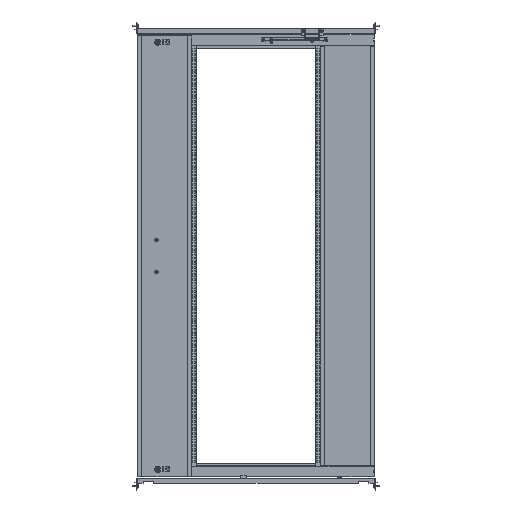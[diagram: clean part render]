
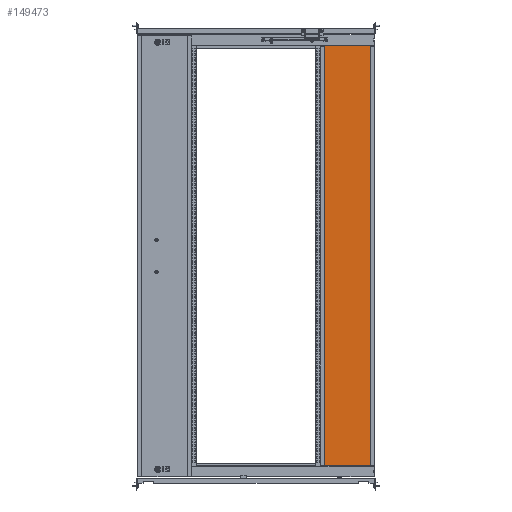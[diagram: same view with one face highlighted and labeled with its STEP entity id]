
A CAD part, top view. The second image highlights one B-rep face of the part: STEP entity #149473.
In plain terms, the highlighted planar face has unit normal (0, 0, 1).
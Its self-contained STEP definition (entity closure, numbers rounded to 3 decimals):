
#149056 = VERTEX_POINT('',#149057);
#149057 = CARTESIAN_POINT('',(-98.5,-786.9,0.));
#149063 = EDGE_CURVE('',#149064,#149056,#149066,.T.);
#149064 = VERTEX_POINT('',#149065);
#149065 = CARTESIAN_POINT('',(-98.5,786.9,0.));
#149066 = LINE('',#149067,#149068);
#149067 = CARTESIAN_POINT('',(-98.5,0.,
    0.));
#149068 = VECTOR('',#149069,1.);
#149069 = DIRECTION('',(0.,-1.,-0.));
#149244 = VERTEX_POINT('',#149245);
#149245 = CARTESIAN_POINT('',(98.5,786.9,0.));
#149251 = EDGE_CURVE('',#149252,#149244,#149254,.T.);
#149252 = VERTEX_POINT('',#149253);
#149253 = CARTESIAN_POINT('',(98.5,-786.9,0.));
#149254 = LINE('',#149255,#149256);
#149255 = CARTESIAN_POINT('',(98.5,0.,
    0.));
#149256 = VECTOR('',#149257,1.);
#149257 = DIRECTION('',(0.,1.,0.));
#149353 = EDGE_CURVE('',#149354,#149356,#149358,.T.);
#149354 = VERTEX_POINT('',#149355);
#149355 = CARTESIAN_POINT('',(97.9,-786.9,0.));
#149356 = VERTEX_POINT('',#149357);
#149357 = CARTESIAN_POINT('',(97.9,-787.5,0.));
#149358 = LINE('',#149359,#149360);
#149359 = CARTESIAN_POINT('',(97.9,0.,0.));
#149360 = VECTOR('',#149361,1.);
#149361 = DIRECTION('',(0.,-1.,-0.));
#149473 = ADVANCED_FACE('',(#149474),#149545,.T.);
#149474 = FACE_BOUND('',#149475,.T.);
#149475 = EDGE_LOOP('',(#149476,#149484,#149492,#149498,#149499,#149505,
    #149506,#149514,#149522,#149530,#149538,#149544));
#149476 = ORIENTED_EDGE('',*,*,#149477,.F.);
#149477 = EDGE_CURVE('',#149478,#149056,#149480,.T.);
#149478 = VERTEX_POINT('',#149479);
#149479 = CARTESIAN_POINT('',(-97.9,-786.9,0.));
#149480 = LINE('',#149481,#149482);
#149481 = CARTESIAN_POINT('',(0.,-786.9,0.));
#149482 = VECTOR('',#149483,1.);
#149483 = DIRECTION('',(-1.,0.,0.));
#149484 = ORIENTED_EDGE('',*,*,#149485,.T.);
#149485 = EDGE_CURVE('',#149478,#149486,#149488,.T.);
#149486 = VERTEX_POINT('',#149487);
#149487 = CARTESIAN_POINT('',(-97.9,-787.5,0.));
#149488 = LINE('',#149489,#149490);
#149489 = CARTESIAN_POINT('',(-97.9,-786.9,0.));
#149490 = VECTOR('',#149491,1.);
#149491 = DIRECTION('',(-0.,-1.,-0.));
#149492 = ORIENTED_EDGE('',*,*,#149493,.F.);
#149493 = EDGE_CURVE('',#149356,#149486,#149494,.T.);
#149494 = LINE('',#149495,#149496);
#149495 = CARTESIAN_POINT('',(0.,-787.5,0.));
#149496 = VECTOR('',#149497,1.);
#149497 = DIRECTION('',(-1.,-0.,-0.));
#149498 = ORIENTED_EDGE('',*,*,#149353,.F.);
#149499 = ORIENTED_EDGE('',*,*,#149500,.T.);
#149500 = EDGE_CURVE('',#149354,#149252,#149501,.T.);
#149501 = LINE('',#149502,#149503);
#149502 = CARTESIAN_POINT('',(97.9,-786.9,0.));
#149503 = VECTOR('',#149504,1.);
#149504 = DIRECTION('',(1.,-0.,-0.));
#149505 = ORIENTED_EDGE('',*,*,#149251,.T.);
#149506 = ORIENTED_EDGE('',*,*,#149507,.F.);
#149507 = EDGE_CURVE('',#149508,#149244,#149510,.T.);
#149508 = VERTEX_POINT('',#149509);
#149509 = CARTESIAN_POINT('',(97.9,786.9,0.)
  );
#149510 = LINE('',#149511,#149512);
#149511 = CARTESIAN_POINT('',(0.,786.9,0.));
#149512 = VECTOR('',#149513,1.);
#149513 = DIRECTION('',(1.,0.,0.));
#149514 = ORIENTED_EDGE('',*,*,#149515,.T.);
#149515 = EDGE_CURVE('',#149508,#149516,#149518,.T.);
#149516 = VERTEX_POINT('',#149517);
#149517 = CARTESIAN_POINT('',(97.9,787.5,0.));
#149518 = LINE('',#149519,#149520);
#149519 = CARTESIAN_POINT('',(97.9,786.9,0.));
#149520 = VECTOR('',#149521,1.);
#149521 = DIRECTION('',(-0.,1.,0.));
#149522 = ORIENTED_EDGE('',*,*,#149523,.T.);
#149523 = EDGE_CURVE('',#149516,#149524,#149526,.T.);
#149524 = VERTEX_POINT('',#149525);
#149525 = CARTESIAN_POINT('',(-97.9,787.5,0.));
#149526 = LINE('',#149527,#149528);
#149527 = CARTESIAN_POINT('',(0.,787.5,
    0.));
#149528 = VECTOR('',#149529,1.);
#149529 = DIRECTION('',(-1.,0.,0.));
#149530 = ORIENTED_EDGE('',*,*,#149531,.F.);
#149531 = EDGE_CURVE('',#149532,#149524,#149534,.T.);
#149532 = VERTEX_POINT('',#149533);
#149533 = CARTESIAN_POINT('',(-97.9,786.9,0.)
  );
#149534 = LINE('',#149535,#149536);
#149535 = CARTESIAN_POINT('',(-97.9,0.,0.));
#149536 = VECTOR('',#149537,1.);
#149537 = DIRECTION('',(-0.,1.,-0.));
#149538 = ORIENTED_EDGE('',*,*,#149539,.T.);
#149539 = EDGE_CURVE('',#149532,#149064,#149540,.T.);
#149540 = LINE('',#149541,#149542);
#149541 = CARTESIAN_POINT('',(-97.9,786.9,0.));
#149542 = VECTOR('',#149543,1.);
#149543 = DIRECTION('',(-1.,-0.,-0.));
#149544 = ORIENTED_EDGE('',*,*,#149063,.T.);
#149545 = PLANE('',#149546);
#149546 = AXIS2_PLACEMENT_3D('',#149547,#149548,#149549);
#149547 = CARTESIAN_POINT('',(0.,0.,0.));
#149548 = DIRECTION('',(0.,-0.,1.));
#149549 = DIRECTION('',(1.,0.,0.));
